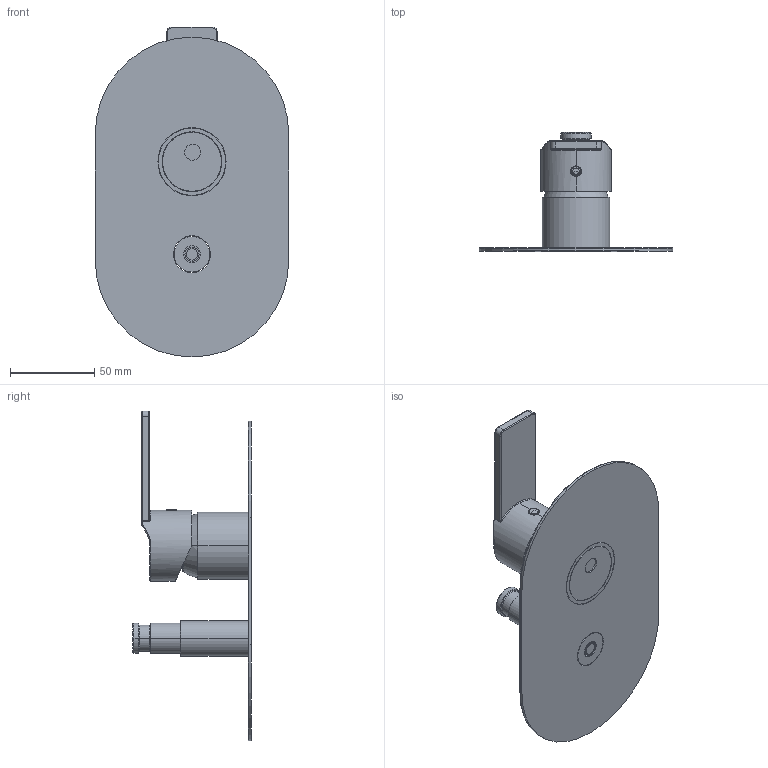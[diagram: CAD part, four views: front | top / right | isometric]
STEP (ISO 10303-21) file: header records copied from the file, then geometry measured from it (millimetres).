
FILE_DESCRIPTION((''),'2;1');
FILE_NAME('3D_SW0001','2024-03-14T13:40:21',('volponeff'),(''),'CREO PARAMETRIC BY PTC INC, 2022014','CREO PARAMETRIC BY PTC INC, 2022014','');
FILE_SCHEMA(('CONFIG_CONTROL_DESIGN'));
Length unit declared in the file: millimetre
Products named in the file (1): 3D_SW0001
Bounding box: 115 x 70.6 x 196 mm (x, y, z)
Volume: 111158.1 mm3; surface area: 79856.1 mm2
Topology: 5 solids, 5 shells, 446 faces, 1091 edges, 664 vertices
Faces by surface type: cylinder 173, plane 102, bspline 54, cone 51, torus 48, sphere 18
Entity records: 28399 total; most frequent: CARTESIAN_POINT 18248, ORIENTED_EDGE 2174, DIRECTION 2039, EDGE_CURVE 1087, AXIS2_PLACEMENT_3D 822, VERTEX_POINT 664, EDGE_LOOP 477, FACE_OUTER_BOUND 446
